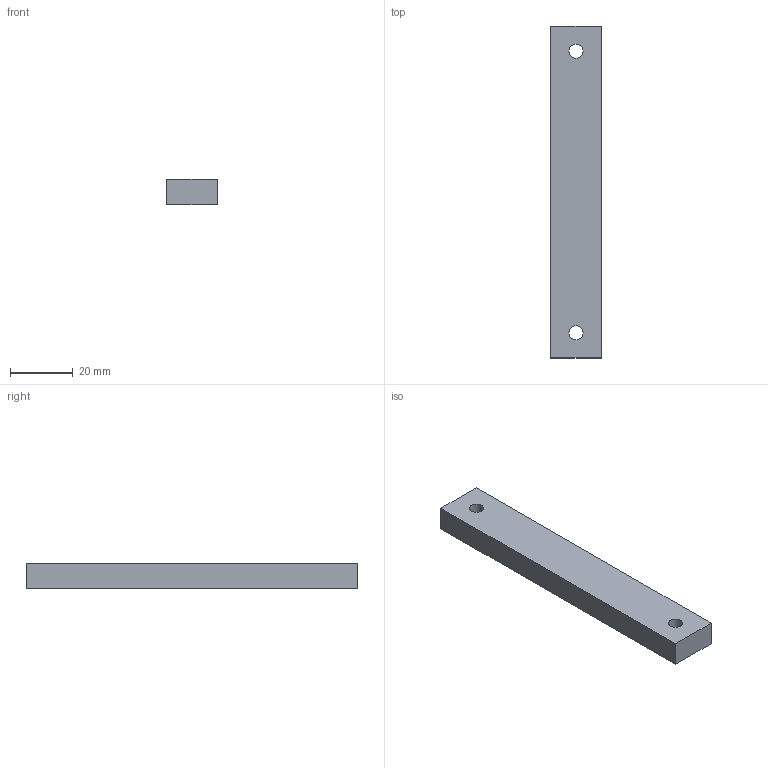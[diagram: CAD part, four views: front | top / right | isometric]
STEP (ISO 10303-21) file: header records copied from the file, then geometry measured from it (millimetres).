
FILE_DESCRIPTION(('Open CASCADE Model'),'2;1');
FILE_NAME('Open CASCADE Shape Model','2026-10-26T17:58:52',('Author'),( 'Open CASCADE'),'Open CASCADE STEP processor 7.9','Open CASCADE 7.9' ,'Unknown');
FILE_SCHEMA(('AUTOMOTIVE_DESIGN { 1 0 10303 214 1 1 1 1 }'));
Length unit declared in the file: millimetre
Products named in the file (1): Open CASCADE STEP translator 7.9 12
Bounding box: 16 x 105.6 x 8 mm (x, y, z)
Volume: 13262.3 mm3; surface area: 5487.4 mm2
Topology: 1 solids, 1 shells, 8 faces, 18 edges, 12 vertices
Faces by surface type: plane 6, cylinder 2
Full cylindrical faces by diameter (mm): 4.5 x2
Entity records: 478 total; most frequent: DIRECTION 76, CARTESIAN_POINT 75, LINE 46, VECTOR 46, ORIENTED_EDGE 36, PCURVE 36, DEFINITIONAL_REPRESENTATION 36, EDGE_CURVE 18
